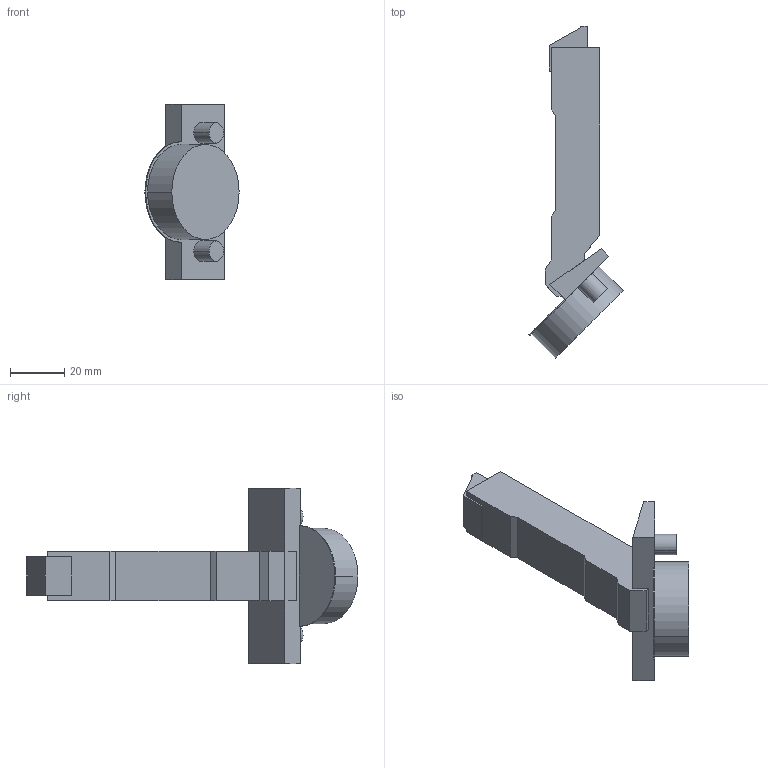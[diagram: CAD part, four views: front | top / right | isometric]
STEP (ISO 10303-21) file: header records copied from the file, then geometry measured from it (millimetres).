
FILE_DESCRIPTION (( 'STEP AP214' ), '1' );
FILE_NAME ('Scharnier T Impresso 120°_-45° GB_BB, aufliegend.step', '2010-12-13T09:58:17', ( 'grass' ), ( '' ), 'SwSTEP 2.0', 'SolidWorks 2010', '' );
FILE_SCHEMA (( 'AUTOMOTIVE_DESIGN' ));
Length unit declared in the file: millimetre
Products named in the file (1): Scharnier T Impresso 120°_-45° GB_BB, aufliegend
Bounding box: 34.65 x 122.12 x 64.5 mm (x, y, z)
Volume: 47873.2 mm3; surface area: 13290.1 mm2
Topology: 1 solids, 3 shells, 59 faces, 141 edges, 94 vertices
Faces by surface type: plane 42, cylinder 17
Entity records: 1739 total; most frequent: CARTESIAN_POINT 295, DIRECTION 295, ORIENTED_EDGE 282, EDGE_CURVE 141, VECTOR 107, LINE 107, VERTEX_POINT 94, AXIS2_PLACEMENT_3D 94
